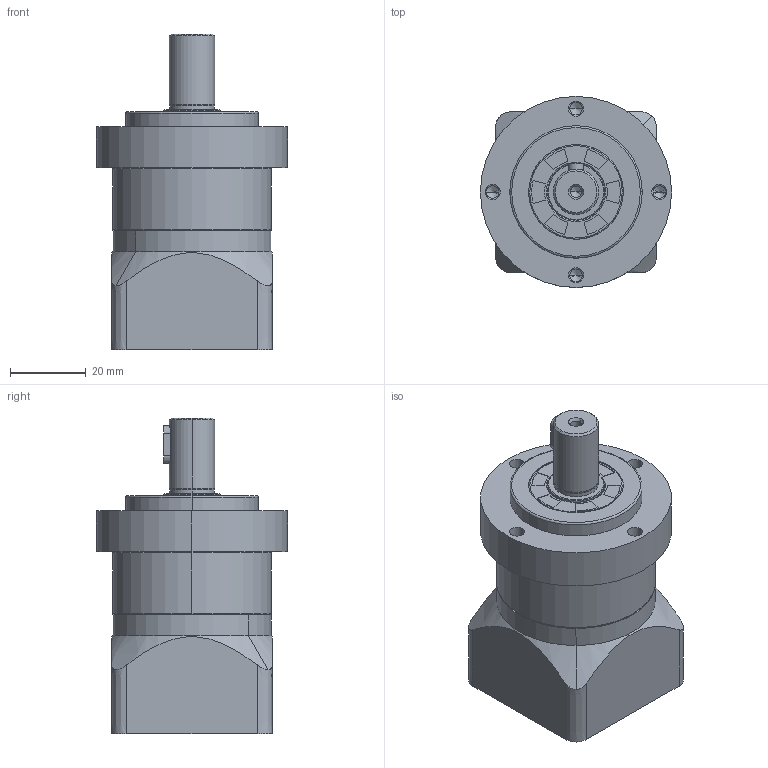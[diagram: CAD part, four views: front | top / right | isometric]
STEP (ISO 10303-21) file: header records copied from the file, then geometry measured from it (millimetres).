
FILE_DESCRIPTION (( 'STEP AP203' ), '1' );
FILE_NAME ('NA42-L1(8-30-46-M4).STEP', '2022-02-25T05:38:26', ( '' ), ( '' ), 'SwSTEP 2.0', 'SolidWorks 2016', '' );
FILE_SCHEMA (( 'CONFIG_CONTROL_DESIGN' ));
Length unit declared in the file: millimetre
Products named in the file (8): SN42-15x25x4; NA42-L1(8-30-46-M4); SN42-(12x20-4x10); SN42; SN42-(30-46-M4); SN42-26x14x11-M4; SN42-(8); NA42-(35x4-44-M4)
Assembly tree (7 placements, depth 2):
  NA42-L1(8-30-46-M4)
    NA42-(35x4-44-M4)
    SN42-15x25x4
    SN42-(12x20-4x10)
    SN42
    SN42-(30-46-M4)
    SN42-(8)
    SN42-26x14x11-M4
Bounding box: 50.5 x 50.5 x 83.5 mm (x, y, z)
Volume: 84701 mm3; surface area: 34438.3 mm2
Topology: 7 solids, 10 shells, 416 faces, 1008 edges, 618 vertices
Faces by surface type: cylinder 204, plane 92, cone 78, bspline 40, torus 2
Entity records: 25460 total; most frequent: CARTESIAN_POINT 15484, ORIENTED_EDGE 1960, DIRECTION 1831, EDGE_CURVE 982, AXIS2_PLACEMENT_3D 719, VERTEX_POINT 618, EDGE_LOOP 475, ADVANCED_FACE 416
